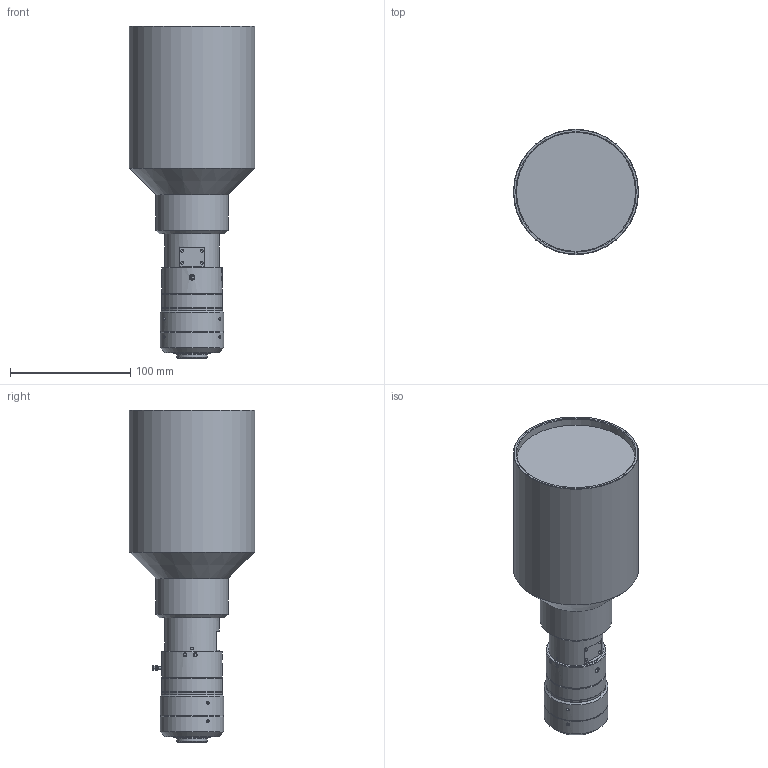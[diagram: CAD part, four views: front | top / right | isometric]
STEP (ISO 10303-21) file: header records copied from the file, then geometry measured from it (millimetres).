
FILE_DESCRIPTION (( 'STEP AP203' ), '1' );
FILE_NAME ('drawing_mtl-8018c-023.STEP', '2016-12-02T06:05:06', ( '' ), ( '' ), 'SwSTEP 2.0', 'SolidWorks 2014', '' );
FILE_SCHEMA (( 'CONFIG_CONTROL_DESIGN' ));
Length unit declared in the file: millimetre
Products named in the file (1): drawing_mtl-8018c-023
Bounding box: 104 x 104 x 275.98 mm (x, y, z)
Volume: 1352548.7 mm3; surface area: 84341.3 mm2
Topology: 1 solids, 1 shells, 343 faces, 887 edges, 590 vertices
Faces by surface type: plane 144, cylinder 123, cone 40, bspline 36
Full cylindrical faces by diameter (mm): 1.548 x1, 2 x3, 2.5 x10, 3 x2, 4 x1, 4.5 x1, 22.5 x1, 24.7 x1, 25.4 x1, 45 x2, 45.5 x2, 49.114 x1, 50 x3, 53 x2, 60 x1, 98.92 x1, 104 x1
Entity records: 18067 total; most frequent: CARTESIAN_POINT 10766, ORIENTED_EDGE 1578, DIRECTION 1186, EDGE_CURVE 789, VERTEX_POINT 557, EDGE_LOOP 452, AXIS2_PLACEMENT_3D 451, FACE_OUTER_BOUND 377
